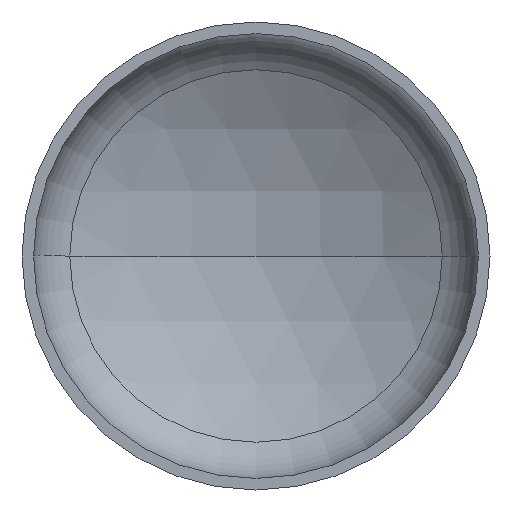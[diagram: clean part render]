
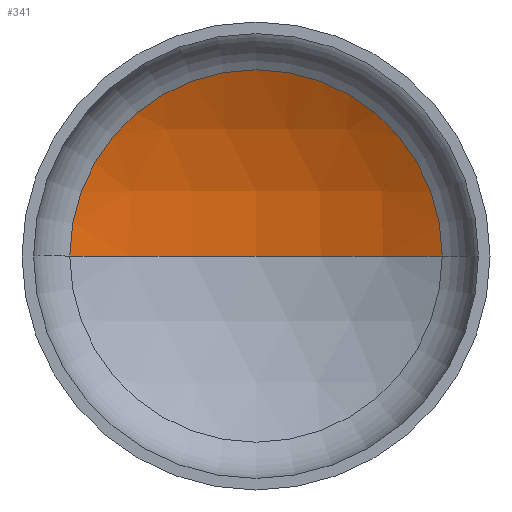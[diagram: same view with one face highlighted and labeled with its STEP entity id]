
A CAD part, front view. The second image highlights one B-rep face of the part: STEP entity #341.
In plain terms, the highlighted spherical face has radius 3040 mm.
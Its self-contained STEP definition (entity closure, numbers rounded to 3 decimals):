
#6 = AXIS2_PLACEMENT_3D ( 'NONE', #89, #121, #120 ) ;
#28 = AXIS2_PLACEMENT_3D ( 'NONE', #33, #287, #93 ) ;
#29 = AXIS2_PLACEMENT_3D ( 'NONE', #192, #196, #166 ) ;
#32 = AXIS2_PLACEMENT_3D ( 'NONE', #302, #212, #203 ) ;
#33 = CARTESIAN_POINT ( 'NONE',  ( 0., -2029.832, 0. ) ) ;
#63 = EDGE_CURVE ( 'NONE', #126, #219, #207, .T. ) ;
#64 = EDGE_CURVE ( 'NONE', #75, #126, #332, .T. ) ;
#65 = EDGE_CURVE ( 'NONE', #75, #219, #194, .T. ) ;
#75 = VERTEX_POINT ( 'NONE', #354 ) ;
#79 = ORIENTED_EDGE ( 'NONE', *, *, #63, .T. ) ;
#89 = CARTESIAN_POINT ( 'NONE',  ( 0., -2029.832, 0. ) ) ;
#93 = DIRECTION ( 'NONE',  ( 1., 0., 0. ) ) ;
#120 = DIRECTION ( 'NONE',  ( -1., 0., 0. ) ) ;
#121 = DIRECTION ( 'NONE',  ( 0., 0., -1. ) ) ;
#126 = VERTEX_POINT ( 'NONE', #167 ) ;
#152 = ORIENTED_EDGE ( 'NONE', *, *, #64, .T. ) ;
#166 = DIRECTION ( 'NONE',  ( -1., 0., 0. ) ) ;
#167 = CARTESIAN_POINT ( 'NONE',  ( 1511.951, 607.516, 0. ) ) ;
#171 = ORIENTED_EDGE ( 'NONE', *, *, #65, .F. ) ;
#192 = CARTESIAN_POINT ( 'NONE',  ( 0., -2029.832, 0. ) ) ;
#194 = CIRCLE ( 'NONE', #28, 3040. ) ;
#196 = DIRECTION ( 'NONE',  ( 0., 0., -1. ) ) ;
#203 = DIRECTION ( 'NONE',  ( 1., 0., 0. ) ) ;
#207 = CIRCLE ( 'NONE', #32, 1511.951 ) ;
#212 = DIRECTION ( 'NONE',  ( 0., -1., 0. ) ) ;
#219 = VERTEX_POINT ( 'NONE', #260 ) ;
#241 = SPHERICAL_SURFACE ( 'NONE', #6, 3040. ) ;
#243 = EDGE_LOOP ( 'NONE', ( #171, #152, #79 ) ) ;
#260 = CARTESIAN_POINT ( 'NONE',  ( -1511.951, 607.516, 0. ) ) ;
#287 = DIRECTION ( 'NONE',  ( 0., 0., 1. ) ) ;
#302 = CARTESIAN_POINT ( 'NONE',  ( 0., 607.516, 0. ) ) ;
#332 = CIRCLE ( 'NONE', #29, 3040. ) ;
#341 = ADVANCED_FACE ( 'NONE', ( #359 ), #241, .F. ) ;
#354 = CARTESIAN_POINT ( 'NONE',  ( 0., 1010.168, 0. ) ) ;
#359 = FACE_OUTER_BOUND ( 'NONE', #243, .T. ) ;
